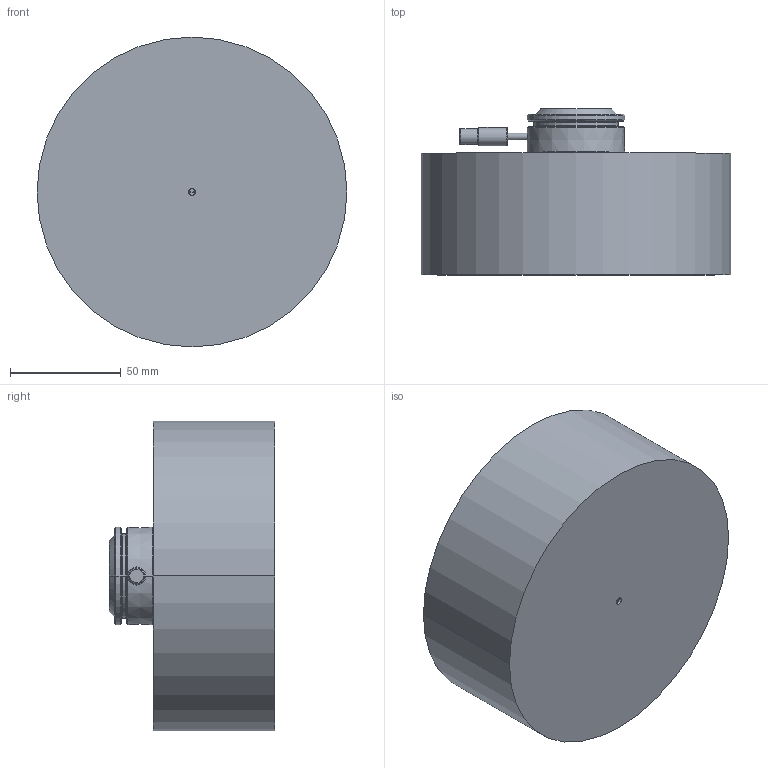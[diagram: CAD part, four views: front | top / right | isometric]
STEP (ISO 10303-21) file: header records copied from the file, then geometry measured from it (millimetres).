
FILE_DESCRIPTION((''),'2;1');
FILE_NAME('M44G102.stp','2020-09-19T08:39:31',(''),(''),'AutoCAD STEP 2000i','AutoCAD 2000i',', , ');
FILE_SCHEMA(('CONFIG_CONTROL_DESIGN'));
Length unit declared in the file: millimetre
Products named in the file (3): DRAWING1; NOZZLE M102G44; MOLD BODY M102 G44
Assembly tree (2 placements, depth 2):
  DRAWING1
    NOZZLE M102G44
    MOLD BODY M102 G44
Bounding box: 140 x 75 x 140 mm (x, y, z)
Volume: 868930.7 mm3; surface area: 71092.7 mm2
Topology: 2 solids, 2 shells, 126 faces, 297 edges, 174 vertices
Faces by surface type: cone 74, cylinder 22, bspline 13, torus 10, plane 7
Entity records: 4370 total; most frequent: CARTESIAN_POINT 1305, DIRECTION 707, ORIENTED_EDGE 578, AXIS2_PLACEMENT_3D 305, EDGE_CURVE 289, CIRCLE 189, VERTEX_POINT 172, EDGE_LOOP 133
